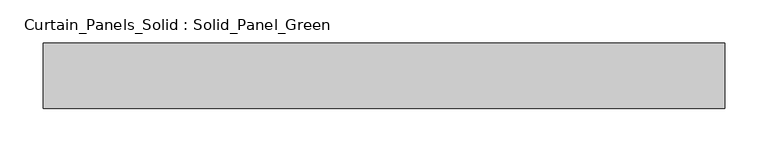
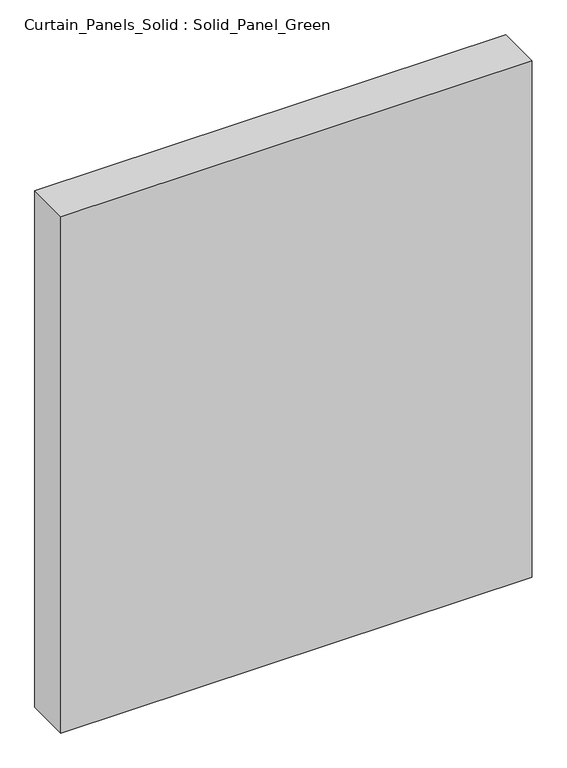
"""IFC4 building model written with IfcOpenShell, lengths in millimetres: plate geometry, Curtain_Panels_Solid : Solid_Panel_Green."""

import ifcopenshell
import ifcopenshell.guid

model = None  # the IFC model being written
_history = None  # IfcOwnerHistory: only IFC2X3 demands one
_inside = {}  # id of a spatial element -> (the spatial element, [elements in it])
_under = {}  # id of a project, library or spatial element -> (it, [spatial elements below it])
_declared = {}  # id of a project -> (the project, [libraries it declares])
_typed = {}  # id of a type object -> (the type object, [elements of that type])
_made_of = {}  # id of a material, layer set ... -> (it, [elements and type objects made of it])


def new_model(schema):
    """Start an empty IFC model of exactly this schema.

    Asked for "IFC4X3", IfcOpenShell would pick the latest addendum, in which some entities
    have other attributes; the version numbers below select the first issue.
    IFC2X3 requires an IfcOwnerHistory on every rooted entity: one is made here for all.
    """
    global model, _history
    if schema == "IFC4X3":
        model = ifcopenshell.file(schema_version=(4, 3, 0, 0))
    else:
        model = ifcopenshell.file(schema=schema)
    _inside.clear()
    _under.clear()
    _declared.clear()
    _typed.clear()
    _made_of.clear()
    _history = None
    if model.schema == "IFC2X3":
        org = make("IfcOrganization", Name="unknown")
        user = make(
            "IfcPersonAndOrganization",
            ThePerson=make("IfcPerson", FamilyName="unknown"),
            TheOrganization=org,
        )
        app = make(
            "IfcApplication",
            ApplicationDeveloper=org,
            Version="unknown",
            ApplicationFullName="unknown",
            ApplicationIdentifier="unknown",
        )
        _history = make(
            "IfcOwnerHistory",
            OwningUser=user,
            OwningApplication=app,
            ChangeAction="ADDED",
            CreationDate=0,
        )
    return model


def make(cls, **values):
    """One entity of the class cls with the attributes given. An attribute that is None is left unset."""
    return model.create_entity(
        cls, **{name: value for name, value in values.items() if value is not None}
    )


def rooted(cls, **values):
    """An entity with a GlobalId (a new one), such as an element, a storey or a relation."""
    return make(cls, GlobalId=ifcopenshell.guid.new(), OwnerHistory=_history, **values)


def si_unit(unit_type, name, prefix=None):
    """IfcSIUnit, for example si_unit("LENGTHUNIT", "METRE", prefix="MILLI")."""
    return make("IfcSIUnit", UnitType=unit_type, Prefix=prefix, Name=name)


def assignment(units):
    """IfcUnitAssignment: the units of a project."""
    return None if units is None else make("IfcUnitAssignment", Units=units)


def point(xyz):
    """IfcCartesianPoint."""
    return None if xyz is None else make("IfcCartesianPoint", Coordinates=xyz)


def direction(xyz):
    """IfcDirection."""
    return None if xyz is None else make("IfcDirection", DirectionRatios=xyz)


def frame(location, z_axis=None, x_axis=None):
    """IfcAxis2Placement3D, a coordinate frame: its origin and axes. An axis left out is left unset."""
    return make(
        "IfcAxis2Placement3D",
        Location=point(location),
        Axis=direction(z_axis),
        RefDirection=direction(x_axis),
    )


def origin():
    """The frame at (0, 0, 0) with its axes left unset."""
    return frame((0.0, 0.0, 0.0))


def origin_with_axes():
    """The frame at (0, 0, 0) with the z axis (0, 0, 1) and the x axis (1, 0, 0) written out."""
    return frame((0.0, 0.0, 0.0), z_axis=(0.0, 0.0, 1.0), x_axis=(1.0, 0.0, 0.0))


def place(relative_to, where):
    """IfcLocalPlacement: puts the frame where relative to a parent placement (None: the world)."""
    return make(
        "IfcLocalPlacement", PlacementRelTo=relative_to, RelativePlacement=where
    )


def context(
    kind, dimensions, precision=None, world=None, true_north=None, identifier=None
):
    """IfcGeometricRepresentationContext, for example the 3D "Model" context."""
    return make(
        "IfcGeometricRepresentationContext",
        ContextIdentifier=identifier,
        ContextType=kind,
        CoordinateSpaceDimension=dimensions,
        Precision=precision,
        WorldCoordinateSystem=world,
        TrueNorth=true_north,
    )


def project(units=None, contexts=None):
    """IfcProject with its units and contexts."""
    return rooted(
        "IfcProject",
        Name="project",
        RepresentationContexts=contexts,
        UnitsInContext=assignment(units),
    )


def spatial(cls, under=None, at=None, **own):
    """A site, building, storey or space (cls), placed at a placement, below another one or the project."""
    s = rooted(cls, ObjectPlacement=at, **own)
    if under is not None:
        _under.setdefault(under.id(), (under, []))[1].append(s)
    return s


def polyline(points):
    """IfcPolyline through the points."""
    return make("IfcPolyline", Points=[point(p) for p in points])


def outline(outer, holes=None, kind="AREA"):
    """IfcArbitraryClosedProfileDef: a profile drawn as a closed curve; with holes, ...WithVoids."""
    if holes is None:
        return make("IfcArbitraryClosedProfileDef", ProfileType=kind, OuterCurve=outer)
    return make(
        "IfcArbitraryProfileDefWithVoids",
        ProfileType=kind,
        OuterCurve=outer,
        InnerCurves=holes,
    )


def extrude(swept, where, along, depth):
    """IfcExtrudedAreaSolid: the profile swept, set in the frame where, extruded along a direction by depth."""
    return make(
        "IfcExtrudedAreaSolid",
        SweptArea=swept,
        Position=where,
        ExtrudedDirection=direction(along),
        Depth=depth,
    )


def shape(context_of_items, identifier, shape_type, items):
    """IfcShapeRepresentation: the items that make up one representation, for example the "Body"."""
    return make(
        "IfcShapeRepresentation",
        ContextOfItems=context_of_items,
        RepresentationIdentifier=identifier,
        RepresentationType=shape_type,
        Items=items,
    )


def source(mapping_origin, context_of_items, identifier, shape_type, items):
    """IfcRepresentationMap: a shape defined once, which mapped items show again and again."""
    return make(
        "IfcRepresentationMap",
        MappingOrigin=mapping_origin,
        MappedRepresentation=shape(context_of_items, identifier, shape_type, items),
    )


def transform(
    local_origin,
    x_axis=None,
    y_axis=None,
    z_axis=None,
    scale=None,
    scale2=None,
    scale3=None,
    uniform=True,
):
    """IfcCartesianTransformationOperator3D, or its non-uniform kind. x_axis, y_axis, z_axis: its Axis1, 2, 3."""
    if uniform:
        return make(
            "IfcCartesianTransformationOperator3D",
            Axis1=direction(x_axis),
            Axis2=direction(y_axis),
            LocalOrigin=point(local_origin),
            Scale=scale,
            Axis3=direction(z_axis),
        )
    return make(
        "IfcCartesianTransformationOperator3DnonUniform",
        Axis1=direction(x_axis),
        Axis2=direction(y_axis),
        LocalOrigin=point(local_origin),
        Scale=scale,
        Axis3=direction(z_axis),
        Scale2=scale2,
        Scale3=scale3,
    )


def mapped(mapping_source, mapping_target):
    """IfcMappedItem: shows the shape of a source again, moved by a transform."""
    return make(
        "IfcMappedItem", MappingSource=mapping_source, MappingTarget=mapping_target
    )


def made_of(thing, what):
    """Note that an element or type object is made of a material, layer set ...; save() writes the relation."""
    if what is not None:
        _made_of.setdefault(what.id(), (what, []))[1].append(thing)
    return thing


def element(
    cls,
    number,
    at=None,
    inside=None,
    cuts=None,
    type_object=None,
    material=None,
    context=None,
    identifier="Body",
    shape_type=None,
    held_by="IfcProductDefinitionShape",
    body=None,
    shapes=None,
    **own,
):
    """One element of the class cls, such as IfcWall. Its Tag is "e" and its number.

    at: its placement. inside: the storey or other place that contains it. cuts: it is an
    opening in that element (IfcRelVoidsElement). A single representation is given by context,
    identifier, shape_type and body (its items); several are given by shapes. held_by: the class
    of the entity that holds the representations. save() writes the other relations.
    """
    e = rooted(cls, Tag="e%d" % number, ObjectPlacement=at, **own)
    if body is not None:
        shapes = [shape(context, identifier, shape_type, body)]
    if shapes is not None:
        e.Representation = make(held_by, Representations=shapes)
    if inside is not None:
        _inside.setdefault(inside.id(), (inside, []))[1].append(e)
    if cuts is not None:
        rooted(
            "IfcRelVoidsElement", RelatingBuildingElement=cuts, RelatedOpeningElement=e
        )
    if type_object is not None:
        _typed.setdefault(type_object.id(), (type_object, []))[1].append(e)
    return made_of(e, material)


def aggregate(whole, parts):
    """IfcRelAggregates: a whole, such as a stair, and the parts it consists of."""
    return rooted("IfcRelAggregates", RelatingObject=whole, RelatedObjects=parts)


def save(model, path):
    """Write the relations noted so far, then the file.

    IfcRelAggregates (storeys below a building ...), IfcRelContainedInSpatialStructure (elements
    in a storey), IfcRelDefinesByType, IfcRelAssociatesMaterial and IfcRelDeclares: one each for
    every whole, place, type object, material and project.
    """
    for whole, parts in _under.values():
        aggregate(whole, parts)
    for where, things in _inside.values():
        rooted(
            "IfcRelContainedInSpatialStructure",
            RelatedElements=things,
            RelatingStructure=where,
        )
    for kind, things in _typed.values():
        rooted("IfcRelDefinesByType", RelatedObjects=things, RelatingType=kind)
    for what, things in _made_of.values():
        rooted("IfcRelAssociatesMaterial", RelatedObjects=things, RelatingMaterial=what)
    for by, libraries in _declared.values():
        rooted("IfcRelDeclares", RelatingContext=by, RelatedDefinitions=libraries)
    model.write(path)


def curtain_panels_solid_solid_panel_green_146c5b7a(model_context):
    return source(origin(), model_context, "Body", "SweptSolid", [
        extrude(outline(polyline([(391.6666668, -25.0), (-391.6666668, -25.0), (-391.6666668, 50.0), (391.6666668, 50.0), (391.6666668, -25.0)])), origin_with_axes(), (0.0, 0.0, 1.0), 907.5),
    ])


if __name__ == "__main__":
    model = new_model("IFC4")
    model_context = context("Model", 3, world=origin())
    ifc_project = project(units=[si_unit("LENGTHUNIT", "METRE", prefix="MILLI")], contexts=[model_context])
    site = spatial("IfcSite", under=ifc_project)
    building = spatial("IfcBuilding", under=site)
    placement = place(None, origin())
    curtain_panels_solid_solid_panel_green_shape = curtain_panels_solid_solid_panel_green_146c5b7a(model_context)
    element("IfcPlate", 1, ObjectType="Curtain_Panels_Solid : Solid_Panel_Green", at=placement, inside=building, context=model_context, shape_type="MappedRepresentation", body=[
        mapped(curtain_panels_solid_solid_panel_green_shape, transform((0.0, 0.0, 0.0), x_axis=(1.0, 0.0, 0.0), y_axis=(0.0, 1.0, 0.0), z_axis=(0.0, 0.0, 1.0))),
    ])
    save(model, "model.ifc")
